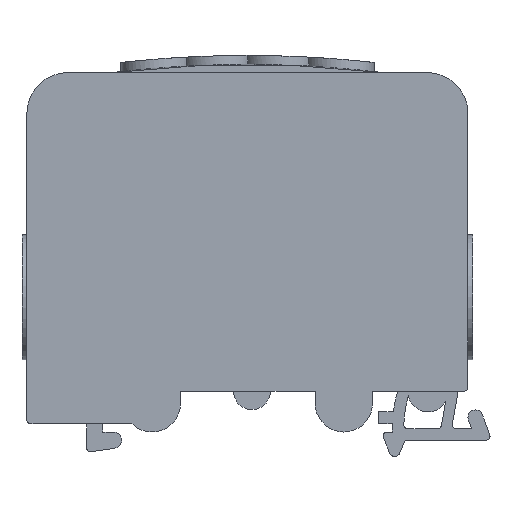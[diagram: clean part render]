
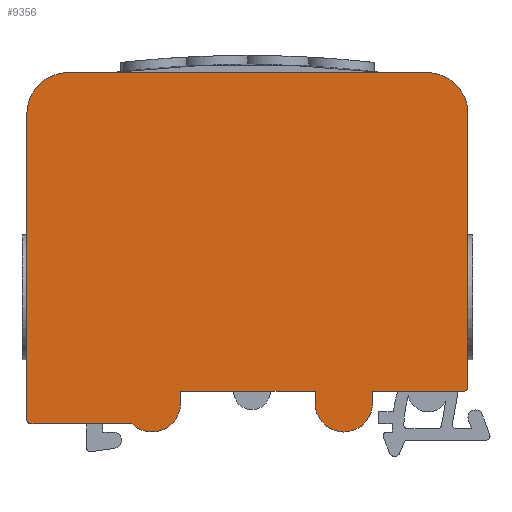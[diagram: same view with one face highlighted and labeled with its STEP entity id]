
A CAD part, front view. The second image highlights one B-rep face of the part: STEP entity #9356.
In plain terms, the highlighted planar face has unit normal (0, -1, 0).
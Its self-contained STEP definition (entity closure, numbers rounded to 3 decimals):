
#300=LINE('',#13228,#959);
#303=LINE('',#13234,#962);
#307=LINE('',#13246,#966);
#309=LINE('',#13250,#968);
#314=LINE('',#13260,#973);
#316=LINE('',#13268,#975);
#324=LINE('',#13296,#983);
#325=LINE('',#13298,#984);
#326=LINE('',#13302,#985);
#959=VECTOR('',#10896,1000.);
#962=VECTOR('',#10901,1000.);
#966=VECTOR('',#10913,1000.);
#968=VECTOR('',#10917,1000.);
#973=VECTOR('',#10924,1000.);
#975=VECTOR('',#10934,1000.);
#983=VECTOR('',#10962,1000.);
#984=VECTOR('',#10963,1000.);
#985=VECTOR('',#10966,1000.);
#1447=CIRCLE('',#9813,3.5);
#1449=CIRCLE('',#9819,3.5);
#1451=CIRCLE('',#9823,0.5);
#1453=CIRCLE('',#9826,0.5);
#1456=CIRCLE('',#9831,5.);
#1457=CIRCLE('',#9832,5.);
#1677=PLANE('',#9830);
#2578=ORIENTED_EDGE('',*,*,#4223,.F.);
#2579=ORIENTED_EDGE('',*,*,#4213,.T.);
#2580=ORIENTED_EDGE('',*,*,#4209,.F.);
#2581=ORIENTED_EDGE('',*,*,#4208,.F.);
#2582=ORIENTED_EDGE('',*,*,#4205,.F.);
#2583=ORIENTED_EDGE('',*,*,#4200,.F.);
#2584=ORIENTED_EDGE('',*,*,#4198,.F.);
#2585=ORIENTED_EDGE('',*,*,#4195,.F.);
#2586=ORIENTED_EDGE('',*,*,#4192,.F.);
#2587=ORIENTED_EDGE('',*,*,#4189,.F.);
#2588=ORIENTED_EDGE('',*,*,#4217,.T.);
#2589=ORIENTED_EDGE('',*,*,#4224,.F.);
#2590=ORIENTED_EDGE('',*,*,#4225,.T.);
#2591=ORIENTED_EDGE('',*,*,#4226,.F.);
#2592=ORIENTED_EDGE('',*,*,#4227,.T.);
#4189=EDGE_CURVE('',#5066,#5067,#300,.T.);
#4192=EDGE_CURVE('',#5067,#5069,#303,.T.);
#4195=EDGE_CURVE('',#5069,#5071,#1447,.T.);
#4198=EDGE_CURVE('',#5071,#5073,#307,.T.);
#4200=EDGE_CURVE('',#5073,#5074,#309,.T.);
#4205=EDGE_CURVE('',#5074,#5077,#314,.T.);
#4208=EDGE_CURVE('',#5077,#5079,#1449,.T.);
#4209=EDGE_CURVE('',#5079,#5080,#316,.T.);
#4213=EDGE_CURVE('',#5083,#5080,#1451,.F.);
#4217=EDGE_CURVE('',#5066,#5085,#1453,.F.);
#4223=EDGE_CURVE('',#5083,#5090,#324,.T.);
#4224=EDGE_CURVE('',#5091,#5085,#325,.T.);
#4225=EDGE_CURVE('',#5091,#5092,#1456,.F.);
#4226=EDGE_CURVE('',#5093,#5092,#326,.T.);
#4227=EDGE_CURVE('',#5093,#5090,#1457,.F.);
#5066=VERTEX_POINT('',#13227);
#5067=VERTEX_POINT('',#13229);
#5069=VERTEX_POINT('',#13235);
#5071=VERTEX_POINT('',#13241);
#5073=VERTEX_POINT('',#13247);
#5074=VERTEX_POINT('',#13251);
#5077=VERTEX_POINT('',#13258);
#5079=VERTEX_POINT('',#13264);
#5080=VERTEX_POINT('',#13269);
#5083=VERTEX_POINT('',#13277);
#5085=VERTEX_POINT('',#13283);
#5090=VERTEX_POINT('',#13297);
#5091=VERTEX_POINT('',#13299);
#5092=VERTEX_POINT('',#13301);
#5093=VERTEX_POINT('',#13303);
#5733=EDGE_LOOP('',(#2578,#2579,#2580,#2581,#2582,#2583,#2584,#2585,#2586,
#2587,#2588,#2589,#2590,#2591,#2592));
#6206=FACE_BOUND('',#5733,.T.);
#9356=ADVANCED_FACE('',(#6206),#1677,.F.);
#9813=AXIS2_PLACEMENT_3D('',#13240,#10907,#10908);
#9819=AXIS2_PLACEMENT_3D('',#13266,#10930,#10931);
#9823=AXIS2_PLACEMENT_3D('',#13276,#10941,#10942);
#9826=AXIS2_PLACEMENT_3D('',#13284,#10949,#10950);
#9830=AXIS2_PLACEMENT_3D('',#13295,#10960,#10961);
#9831=AXIS2_PLACEMENT_3D('',#13300,#10964,#10965);
#9832=AXIS2_PLACEMENT_3D('',#13304,#10967,#10968);
#10896=DIRECTION('',(-1.,0.,0.));
#10901=DIRECTION('',(0.,0.,-1.));
#10907=DIRECTION('',(0.,1.,0.));
#10908=DIRECTION('',(-1.,0.,0.));
#10913=DIRECTION('',(0.,0.,1.));
#10917=DIRECTION('',(-1.,0.,0.));
#10924=DIRECTION('',(0.,0.,-1.));
#10930=DIRECTION('',(0.,1.,0.));
#10931=DIRECTION('',(1.,0.,0.));
#10934=DIRECTION('',(-1.,0.,0.));
#10941=DIRECTION('',(0.,1.,0.));
#10942=DIRECTION('',(0.,0.,1.));
#10949=DIRECTION('',(0.,1.,0.));
#10950=DIRECTION('',(0.,0.,1.));
#10960=DIRECTION('',(0.,1.,0.));
#10961=DIRECTION('',(0.,0.,1.));
#10962=DIRECTION('',(0.,0.,1.));
#10963=DIRECTION('',(0.,0.,-1.));
#10964=DIRECTION('',(0.,1.,0.));
#10965=DIRECTION('',(0.,0.,1.));
#10966=DIRECTION('',(1.,0.,0.));
#10967=DIRECTION('',(0.,1.,0.));
#10968=DIRECTION('',(0.,0.,1.));
#13227=CARTESIAN_POINT('',(26.5,0.,-17.5));
#13228=CARTESIAN_POINT('',(15.3,0.,-17.5));
#13229=CARTESIAN_POINT('',(15.3,0.,-17.5));
#13234=CARTESIAN_POINT('',(15.3,0.,-19.));
#13235=CARTESIAN_POINT('',(15.3,0.,-19.));
#13240=CARTESIAN_POINT('',(11.8,0.,-19.));
#13241=CARTESIAN_POINT('',(8.3,0.,-19.));
#13246=CARTESIAN_POINT('',(8.3,0.,-21.5));
#13247=CARTESIAN_POINT('',(8.3,0.,-17.5));
#13250=CARTESIAN_POINT('',(-8.2,0.,-17.5));
#13251=CARTESIAN_POINT('',(-8.2,0.,-17.5));
#13258=CARTESIAN_POINT('',(-8.2,0.,-19.));
#13260=CARTESIAN_POINT('',(-8.2,0.,-21.5));
#13264=CARTESIAN_POINT('',(-14.149,0.,-21.5));
#13266=CARTESIAN_POINT('',(-11.7,0.,-19.));
#13268=CARTESIAN_POINT('',(29.585,0.,-21.5));
#13269=CARTESIAN_POINT('',(-26.5,0.,-21.5));
#13276=CARTESIAN_POINT('',(-26.5,0.,-21.));
#13277=CARTESIAN_POINT('',(-27.,0.,-21.));
#13283=CARTESIAN_POINT('',(27.,0.,-17.));
#13284=CARTESIAN_POINT('',(26.5,0.,-17.));
#13295=CARTESIAN_POINT('',(0.,0.,0.));
#13296=CARTESIAN_POINT('',(-27.,0.,-28.544));
#13297=CARTESIAN_POINT('',(-27.,0.,16.5));
#13298=CARTESIAN_POINT('',(27.,0.,28.544));
#13299=CARTESIAN_POINT('',(27.,0.,16.5));
#13300=CARTESIAN_POINT('',(22.,0.,16.5));
#13301=CARTESIAN_POINT('',(22.,0.,21.5));
#13302=CARTESIAN_POINT('',(-29.585,0.,21.5));
#13303=CARTESIAN_POINT('',(-22.,0.,21.5));
#13304=CARTESIAN_POINT('',(-22.,0.,16.5));
